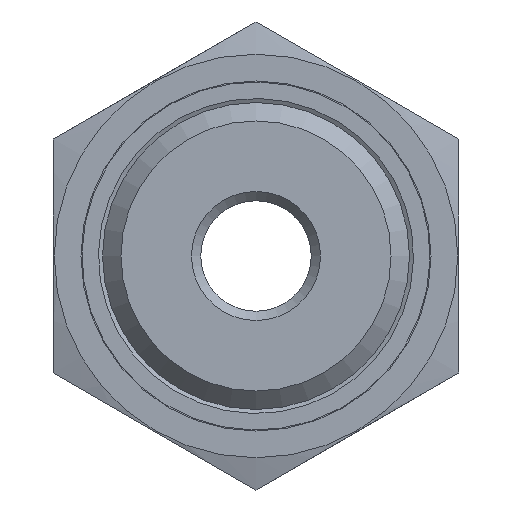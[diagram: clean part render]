
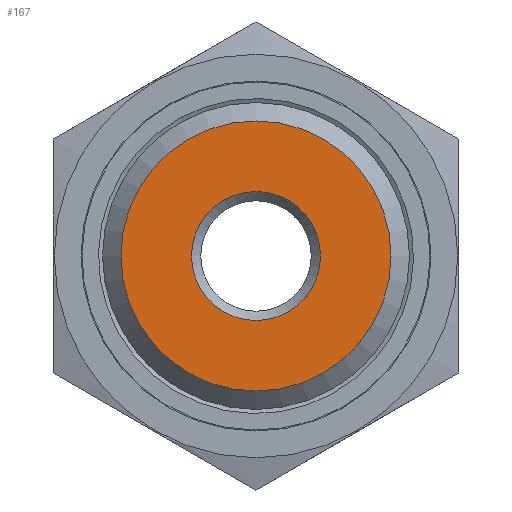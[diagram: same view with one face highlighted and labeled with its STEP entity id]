
A CAD part, left-side view. The second image highlights one B-rep face of the part: STEP entity #167.
In plain terms, the highlighted planar face has unit normal (-1, 0, 0).
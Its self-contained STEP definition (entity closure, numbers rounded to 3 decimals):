
#167 = ADVANCED_FACE( '', ( #336, #337 ), #338, .T. );
#336 = FACE_BOUND( '', #492, .T. );
#337 = FACE_OUTER_BOUND( '', #493, .T. );
#338 = PLANE( '', #494 );
#492 = EDGE_LOOP( '', ( #725 ) );
#493 = EDGE_LOOP( '', ( #726 ) );
#494 = AXIS2_PLACEMENT_3D( '', #727, #728, #729 );
#725 = ORIENTED_EDGE( '', *, *, #833, .T. );
#726 = ORIENTED_EDGE( '', *, *, #823, .T. );
#727 = CARTESIAN_POINT( '', ( -30.5, -11., -6.351 ) );
#728 = DIRECTION( '', ( -1., 0., 0. ) );
#729 = DIRECTION( '', ( 0., -1., 0. ) );
#823 = EDGE_CURVE( '', #946, #946, #947, .T. );
#833 = EDGE_CURVE( '', #958, #958, #959, .F. );
#946 = VERTEX_POINT( '', #1177 );
#947 = CIRCLE( '', #1178, 7.331 );
#958 = VERTEX_POINT( '', #1191 );
#959 = CIRCLE( '', #1192, 3.5 );
#1177 = CARTESIAN_POINT( '', ( -30.5, -7.331, 0. ) );
#1178 = AXIS2_PLACEMENT_3D( '', #1284, #1285, #1286 );
#1191 = CARTESIAN_POINT( '', ( -30.5, -3.5, 0. ) );
#1192 = AXIS2_PLACEMENT_3D( '', #1292, #1293, #1294 );
#1284 = CARTESIAN_POINT( '', ( -30.5, 0., 0. ) );
#1285 = DIRECTION( '', ( -1., 0., 0. ) );
#1286 = DIRECTION( '', ( 0., -1., 0. ) );
#1292 = CARTESIAN_POINT( '', ( -30.5, 0., 0. ) );
#1293 = DIRECTION( '', ( -1., 0., 0. ) );
#1294 = DIRECTION( '', ( 0., -1., 0. ) );
